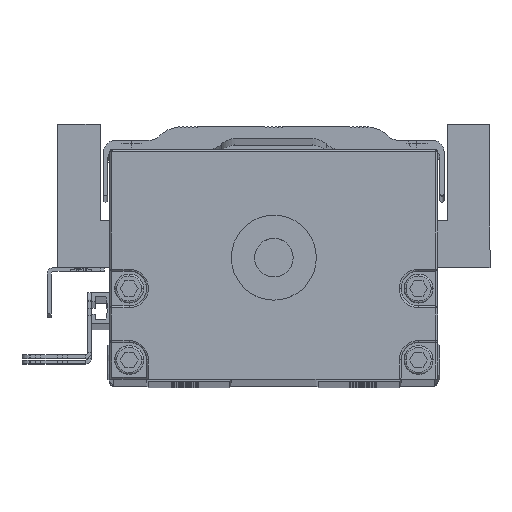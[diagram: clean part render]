
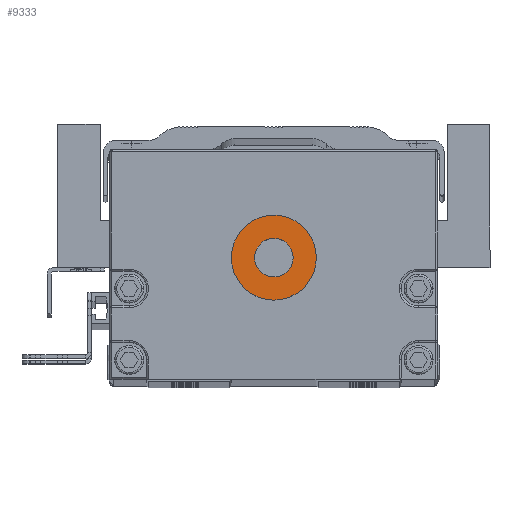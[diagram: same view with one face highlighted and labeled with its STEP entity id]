
A CAD part, top view. The second image highlights one B-rep face of the part: STEP entity #9333.
In plain terms, the highlighted planar face has unit normal (0, 0, 1).
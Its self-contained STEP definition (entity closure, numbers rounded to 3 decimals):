
#393 = DIRECTION ( 'NONE',  ( 1., 0., 0. ) ) ;
#1484 = ORIENTED_EDGE ( 'NONE', *, *, #43836, .T. ) ;
#2051 = FACE_BOUND ( 'NONE', #50665, .T. ) ;
#2477 = VERTEX_POINT ( 'NONE', #5904 ) ;
#3033 = AXIS2_PLACEMENT_3D ( 'NONE', #6286, #47585, #33669 ) ;
#4266 = EDGE_CURVE ( 'NONE', #27099, #2477, #7391, .T. ) ;
#5904 = CARTESIAN_POINT ( 'NONE',  ( -5., 32., 949. ) ) ;
#6286 = CARTESIAN_POINT ( 'NONE',  ( 0., 32., 949. ) ) ;
#7391 = CIRCLE ( 'NONE', #31619, 5. ) ;
#8638 = DIRECTION ( 'NONE',  ( 1., 0., 0. ) ) ;
#9333 = ADVANCED_FACE ( 'NONE', ( #34429, #2051 ), #43367, .T. ) ;
#9454 = EDGE_CURVE ( 'NONE', #41824, #27214, #43801, .T. ) ;
#12299 = CARTESIAN_POINT ( 'NONE',  ( 0., 32., 949. ) ) ;
#13232 = ORIENTED_EDGE ( 'NONE', *, *, #9454, .T. ) ;
#19447 = ORIENTED_EDGE ( 'NONE', *, *, #4266, .F. ) ;
#19765 = CARTESIAN_POINT ( 'NONE',  ( 11., 32., 949. ) ) ;
#20582 = CARTESIAN_POINT ( 'NONE',  ( 0., 32., 949. ) ) ;
#21314 = CARTESIAN_POINT ( 'NONE',  ( -11., 32., 949. ) ) ;
#24570 = EDGE_LOOP ( 'NONE', ( #1484, #13232 ) ) ;
#24623 = CIRCLE ( 'NONE', #3033, 11. ) ;
#25620 = DIRECTION ( 'NONE',  ( 1., 0., 0. ) ) ;
#27099 = VERTEX_POINT ( 'NONE', #37919 ) ;
#27214 = VERTEX_POINT ( 'NONE', #19765 ) ;
#30652 = AXIS2_PLACEMENT_3D ( 'NONE', #12299, #44146, #34886 ) ;
#31594 = CARTESIAN_POINT ( 'NONE',  ( 0., 32., 949. ) ) ;
#31619 = AXIS2_PLACEMENT_3D ( 'NONE', #31594, #36246, #8638 ) ;
#33669 = DIRECTION ( 'NONE',  ( 1., 0., 0. ) ) ;
#33952 = AXIS2_PLACEMENT_3D ( 'NONE', #55537, #48102, #393 ) ;
#34429 = FACE_OUTER_BOUND ( 'NONE', #24570, .T. ) ;
#34886 = DIRECTION ( 'NONE',  ( 1., 0., 0. ) ) ;
#36246 = DIRECTION ( 'NONE',  ( 0., 0., 1. ) ) ;
#37919 = CARTESIAN_POINT ( 'NONE',  ( 5., 32., 949. ) ) ;
#41824 = VERTEX_POINT ( 'NONE', #21314 ) ;
#43367 = PLANE ( 'NONE',  #47281 ) ;
#43801 = CIRCLE ( 'NONE', #30652, 11. ) ;
#43836 = EDGE_CURVE ( 'NONE', #27214, #41824, #24623, .T. ) ;
#44146 = DIRECTION ( 'NONE',  ( 0., 0., 1. ) ) ;
#45508 = CIRCLE ( 'NONE', #33952, 5. ) ;
#46155 = EDGE_CURVE ( 'NONE', #2477, #27099, #45508, .T. ) ;
#46872 = ORIENTED_EDGE ( 'NONE', *, *, #46155, .F. ) ;
#47281 = AXIS2_PLACEMENT_3D ( 'NONE', #20582, #57488, #25620 ) ;
#47585 = DIRECTION ( 'NONE',  ( 0., 0., 1. ) ) ;
#48102 = DIRECTION ( 'NONE',  ( 0., 0., 1. ) ) ;
#50665 = EDGE_LOOP ( 'NONE', ( #46872, #19447 ) ) ;
#55537 = CARTESIAN_POINT ( 'NONE',  ( 0., 32., 949. ) ) ;
#57488 = DIRECTION ( 'NONE',  ( 0., 0., 1. ) ) ;
